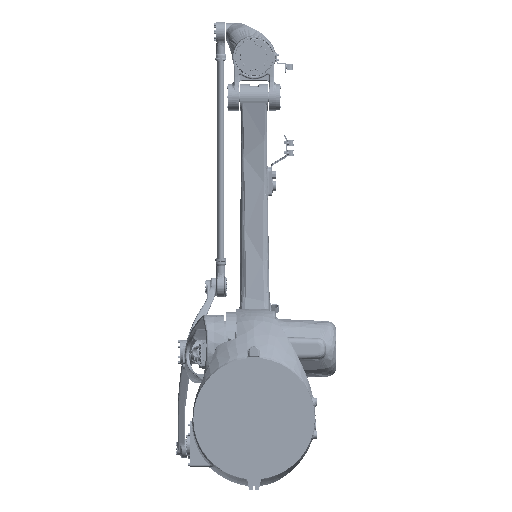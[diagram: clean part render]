
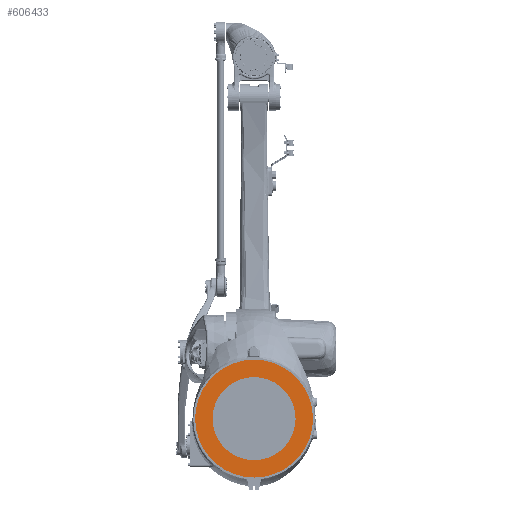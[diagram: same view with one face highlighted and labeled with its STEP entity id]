
A CAD part, front view. The second image highlights one B-rep face of the part: STEP entity #606433.
In plain terms, the highlighted planar face has unit normal (0, -1, 0).
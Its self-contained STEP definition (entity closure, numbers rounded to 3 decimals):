
#16067 = AXIS2_PLACEMENT_3D ( 'NONE', #107988, #347588, #533747 ) ;
#28323 = CARTESIAN_POINT ( 'NONE',  ( 0., 2.6, 0. ) ) ;
#33605 = DIRECTION ( 'NONE',  ( 0., 0., 1. ) ) ;
#62570 = CARTESIAN_POINT ( 'NONE',  ( 0., 2.6, 177.5 ) ) ;
#89444 = DIRECTION ( 'NONE',  ( 0., 0., -1. ) ) ;
#91099 = CARTESIAN_POINT ( 'NONE',  ( 0., 2.6, 125. ) ) ;
#104906 = PLANE ( 'NONE',  #533738 ) ;
#107988 = CARTESIAN_POINT ( 'NONE',  ( 0., 2.6, 0. ) ) ;
#113352 = VERTEX_POINT ( 'NONE', #162085 ) ;
#120653 = DIRECTION ( 'NONE',  ( 0., 1., 0. ) ) ;
#134994 = AXIS2_PLACEMENT_3D ( 'NONE', #28323, #746601, #89444 ) ;
#162085 = CARTESIAN_POINT ( 'NONE',  ( 0., 2.6, -125. ) ) ;
#187420 = CIRCLE ( 'NONE', #16067, 177.5 ) ;
#250971 = EDGE_CURVE ( 'NONE', #113352, #477953, #409625, .T. ) ;
#254368 = EDGE_LOOP ( 'NONE', ( #416217, #264188 ) ) ;
#260613 = ORIENTED_EDGE ( 'NONE', *, *, #347495, .T. ) ;
#264188 = ORIENTED_EDGE ( 'NONE', *, *, #721309, .T. ) ;
#272393 = AXIS2_PLACEMENT_3D ( 'NONE', #345698, #643515, #707172 ) ;
#345698 = CARTESIAN_POINT ( 'NONE',  ( 0., 2.6, 0. ) ) ;
#346479 = CIRCLE ( 'NONE', #134994, 177.5 ) ;
#347495 = EDGE_CURVE ( 'NONE', #477953, #113352, #738084, .T. ) ;
#347588 = DIRECTION ( 'NONE',  ( 0., -1., 0. ) ) ;
#389309 = EDGE_CURVE ( 'NONE', #660936, #501901, #346479, .T. ) ;
#398302 = DIRECTION ( 'NONE',  ( 0., 1., 0. ) ) ;
#402688 = FACE_BOUND ( 'NONE', #774771, .T. ) ;
#409625 = CIRCLE ( 'NONE', #272393, 125. ) ;
#416217 = ORIENTED_EDGE ( 'NONE', *, *, #389309, .T. ) ;
#449004 = CARTESIAN_POINT ( 'NONE',  ( 0., 2.6, 0. ) ) ;
#477953 = VERTEX_POINT ( 'NONE', #91099 ) ;
#480042 = CARTESIAN_POINT ( 'NONE',  ( 0., 2.6, -177.5 ) ) ;
#485310 = DIRECTION ( 'NONE',  ( 0., 0., 1. ) ) ;
#500163 = AXIS2_PLACEMENT_3D ( 'NONE', #449004, #398302, #33605 ) ;
#501901 = VERTEX_POINT ( 'NONE', #62570 ) ;
#533738 = AXIS2_PLACEMENT_3D ( 'NONE', #480042, #120653, #485310 ) ;
#533747 = DIRECTION ( 'NONE',  ( 0., 0., -1. ) ) ;
#606433 = ADVANCED_FACE ( 'NONE', ( #773271, #402688 ), #104906, .F. ) ;
#642978 = CARTESIAN_POINT ( 'NONE',  ( 0., 2.6, -177.5 ) ) ;
#643515 = DIRECTION ( 'NONE',  ( 0., 1., 0. ) ) ;
#660936 = VERTEX_POINT ( 'NONE', #642978 ) ;
#668607 = ORIENTED_EDGE ( 'NONE', *, *, #250971, .T. ) ;
#707172 = DIRECTION ( 'NONE',  ( 0., 0., 1. ) ) ;
#721309 = EDGE_CURVE ( 'NONE', #501901, #660936, #187420, .T. ) ;
#738084 = CIRCLE ( 'NONE', #500163, 125. ) ;
#746601 = DIRECTION ( 'NONE',  ( 0., -1., 0. ) ) ;
#773271 = FACE_OUTER_BOUND ( 'NONE', #254368, .T. ) ;
#774771 = EDGE_LOOP ( 'NONE', ( #668607, #260613 ) ) ;
